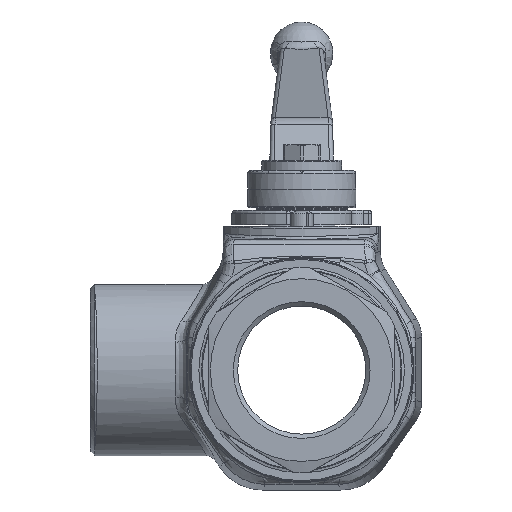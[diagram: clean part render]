
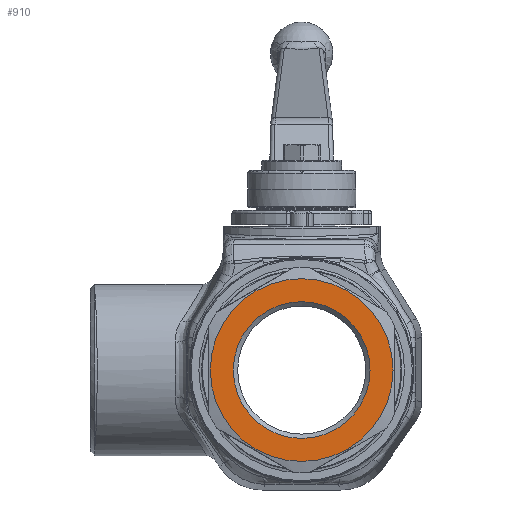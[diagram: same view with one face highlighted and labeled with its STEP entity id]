
A CAD part, front view. The second image highlights one B-rep face of the part: STEP entity #910.
In plain terms, the highlighted planar face has unit normal (0, -1, 0) as drawn and (0, 1, 0) by its records, which use the part's own axes.
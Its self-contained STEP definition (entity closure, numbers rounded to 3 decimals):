
#910 = ADVANCED_FACE( '', ( #2099, #2100 ), #2101, .T. );
#2099 = FACE_BOUND( '', #4613, .T. );
#2100 = FACE_OUTER_BOUND( '', #4614, .T. );
#2101 = PLANE( '', #4615 );
#4613 = EDGE_LOOP( '', ( #10184 ) );
#4614 = EDGE_LOOP( '', ( #10185 ) );
#4615 = AXIS2_PLACEMENT_3D( '', #10186, #10187, #10188 );
#10184 = ORIENTED_EDGE( '', *, *, #13520, .T. );
#10185 = ORIENTED_EDGE( '', *, *, #13828, .F. );
#10186 = CARTESIAN_POINT( '', ( 0., 17.5, 0. ) );
#10187 = DIRECTION( '', ( 0., 1., 0. ) );
#10188 = DIRECTION( '', ( 0., 0., 1. ) );
#13520 = EDGE_CURVE( '', #15334, #15334, #15335, .T. );
#13828 = EDGE_CURVE( '', #15835, #15835, #15836, .T. );
#15334 = VERTEX_POINT( '', #18618 );
#15335 = CIRCLE( '', #18619, 23.95 );
#15835 = VERTEX_POINT( '', #20359 );
#15836 = CIRCLE( '', #20360, 32. );
#18618 = CARTESIAN_POINT( '', ( 0., 17.5, -23.95 ) );
#18619 = AXIS2_PLACEMENT_3D( '', #26234, #26235, #26236 );
#20359 = CARTESIAN_POINT( '', ( 32., 17.5, 0. ) );
#20360 = AXIS2_PLACEMENT_3D( '', #26605, #26606, #26607 );
#26234 = CARTESIAN_POINT( '', ( 0., 17.5, 0. ) );
#26235 = DIRECTION( '', ( 0., -1., 0. ) );
#26236 = DIRECTION( '', ( 0., 0., -1. ) );
#26605 = CARTESIAN_POINT( '', ( 0., 17.5, 0. ) );
#26606 = DIRECTION( '', ( 0., -1., 0. ) );
#26607 = DIRECTION( '', ( 1., 0., 0. ) );
